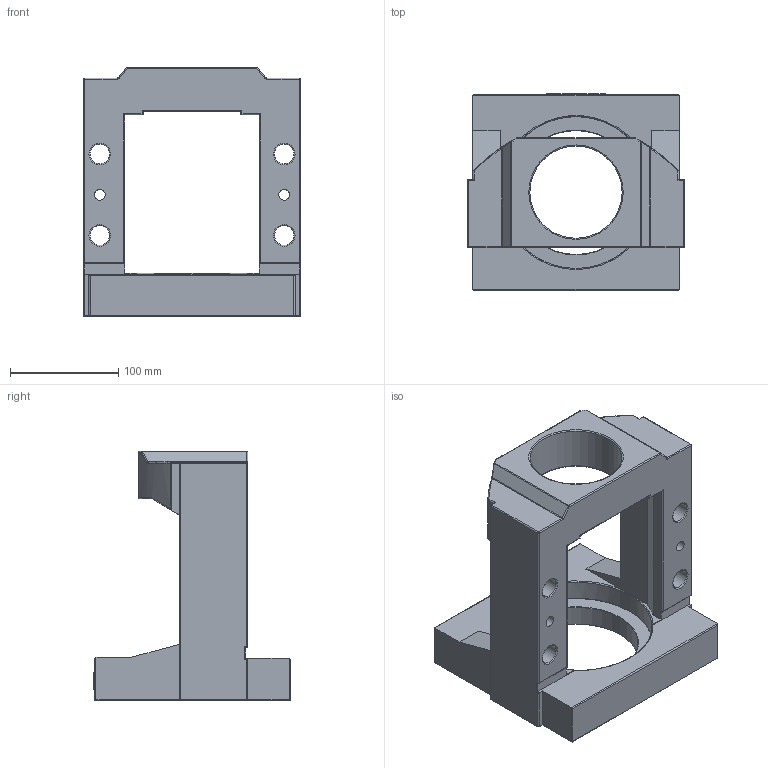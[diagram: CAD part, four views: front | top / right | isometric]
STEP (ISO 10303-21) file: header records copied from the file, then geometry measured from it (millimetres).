
FILE_DESCRIPTION(/* description */ (''),/* implementation_level */ '2;1');
FILE_NAME(/* name */ 'M180H-WBK25DF-B.stp',/* time_stamp */ '2016-10-27T10:45:37+08:00',/* author */ (''),/* organization */ (''),/* preprocessor_version */ 'ST-DEVELOPER v15',/* originating_system */ 'SIEMENS PLM Software NX 8.5',/* authorisation */ '');
FILE_SCHEMA (('CONFIG_CONTROL_DESIGN'));
Length unit declared in the file: millimetre
Products named in the file (1): MBB30
Bounding box: 200 x 181 x 230 mm (x, y, z)
Volume: 1886888.6 mm3; surface area: 249108.6 mm2
Topology: 2 solids, 2 shells, 352 faces, 906 edges, 549 vertices
Faces by surface type: plane 117, cylinder 111, extrusion 41, torus 25, cone 24, sphere 24, bspline 10
Full cylindrical faces by diameter (mm): 3.3 x2, 8.5 x6, 10 x2, 10.2 x4, 14 x2, 18 x4, 26 x4, 85 x1, 114.3 x1, 140 x1
Entity records: 10922 total; most frequent: CARTESIAN_POINT 3235, ORIENTED_EDGE 1582, DIRECTION 1418, EDGE_CURVE 791, AXIS2_PLACEMENT_3D 538, VERTEX_POINT 526, EDGE_LOOP 443, ADVANCED_FACE 352
